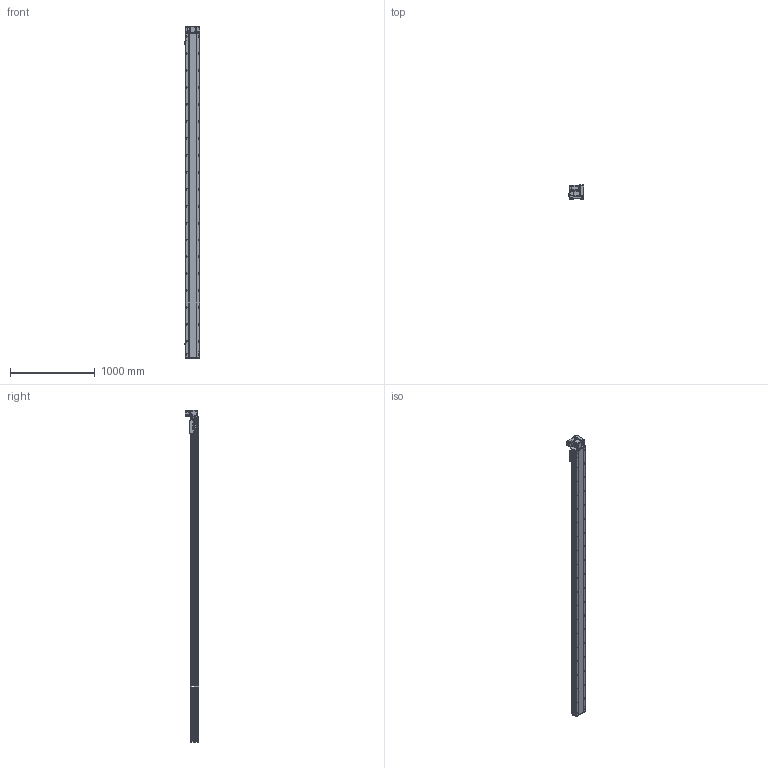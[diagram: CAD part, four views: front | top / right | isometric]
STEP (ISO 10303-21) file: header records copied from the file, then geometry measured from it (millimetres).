
FILE_DESCRIPTION (( 'STEP AP214' ), '1' );
FILE_NAME ('RTB17S-XX-3550-RW-M40-C4.STEP', '2025-12-11T09:21:49', ( '' ), ( '' ), 'SwSTEP 2.0', 'SolidWorks 2018', '' );
FILE_SCHEMA (( 'AUTOMOTIVE_DESIGN' ));
Length unit declared in the file: millimetre
Products named in the file (14): RTB17S-L-001耜醱啣^RTB17S-XX-XX-RW-M40-C4; RTB17S-L-004佪裝蹟譫蟀諉釱^RTB17S-XX-XX-RW-M40-C4; 400W侜督萇儂^RTB17S-XX-XX-RW-M40-C4; RTB14-L-005P--轴承塑胶压盖^RTB17S-RW-皮带座装配-400W_RTB17S-XX-XX-RW-M40-C4; RTH13-BL-012覜茼え俋离^RTB17S-XX-XX-RW-M40-C4; RTB17S-L-007奻裔^RTB17S-XX-XX-RW-M40-C4; RTB14-L-018P^RTB17S-RW-々湍釱蚾饜-400W_RTB17S-XX-XX-RW-M40-C4; OMRON EE-SX672 传感器^RTB17S-XX-XX-RW-M40-C4; RTB14-L-008-M20--萇儂啣^RTB17S-RW-々湍釱蚾饜-400W_RTB17S-XX-XX-RW-M40-C4; RTB17S-RW-々湍釱蚾饜-400W^RTB17S-XX-XX-RW-M40-C4; RMP17S-L-014-T20--々湍釱^RTB17S-RW-々湍釱蚾饜-400W_RTB17S-XX-XX-RW-M40-C4; RTB17-R-011菁釱^RTB17S-XX-XX-RW-M40-C4; RTB14-L-017P^RTB17S-RW-々湍釱蚾饜-400W_RTB17S-XX-XX-RW-M40-C4; RTB17S-XX-3550-RW-M40-C4
Assembly tree (16 placements, depth 3):
  RTB17S-XX-3550-RW-M40-C4
    RTB17-R-011菁釱^RTB17S-XX-XX-RW-M40-C4
    RTB17S-L-007奻裔^RTB17S-XX-XX-RW-M40-C4
    OMRON EE-SX672 传感器^RTB17S-XX-XX-RW-M40-C4  x3
    RTB17S-L-001耜醱啣^RTB17S-XX-XX-RW-M40-C4
    400W侜督萇儂^RTB17S-XX-XX-RW-M40-C4
    RTB17S-L-004佪裝蹟譫蟀諉釱^RTB17S-XX-XX-RW-M40-C4
    RTH13-BL-012覜茼え俋离^RTB17S-XX-XX-RW-M40-C4
    RTB17S-RW-々湍釱蚾饜-400W^RTB17S-XX-XX-RW-M40-C4
      RMP17S-L-014-T20--々湍釱^RTB17S-RW-々湍釱蚾饜-400W_RTB17S-XX-XX-RW-M40-C4
      RTB14-L-005P--轴承塑胶压盖^RTB17S-RW-皮带座装配-400W_RTB17S-XX-XX-RW-M40-C4
      RTB14-L-008-M20--萇儂啣^RTB17S-RW-々湍釱蚾饜-400W_RTB17S-XX-XX-RW-M40-C4
      RTB14-L-017P^RTB17S-RW-々湍釱蚾饜-400W_RTB17S-XX-XX-RW-M40-C4  x2
      RTB14-L-018P^RTB17S-RW-々湍釱蚾饜-400W_RTB17S-XX-XX-RW-M40-C4
Bounding box: 183.5 x 160.5 x 3922.5 mm (x, y, z)
Volume: 33169372.2 mm3; surface area: 3765757.9 mm2
Topology: 15 solids, 15 shells, 2413 faces, 6789 edges, 4437 vertices
Faces by surface type: plane 1094, cylinder 871, bspline 301, cone 139, torus 8
Entity records: 72617 total; most frequent: CARTESIAN_POINT 20794, ORIENTED_EDGE 10422, DIRECTION 9566, EDGE_CURVE 5211, VERTEX_POINT 3425, AXIS2_PLACEMENT_3D 3355, LINE 2856, VECTOR 2856
